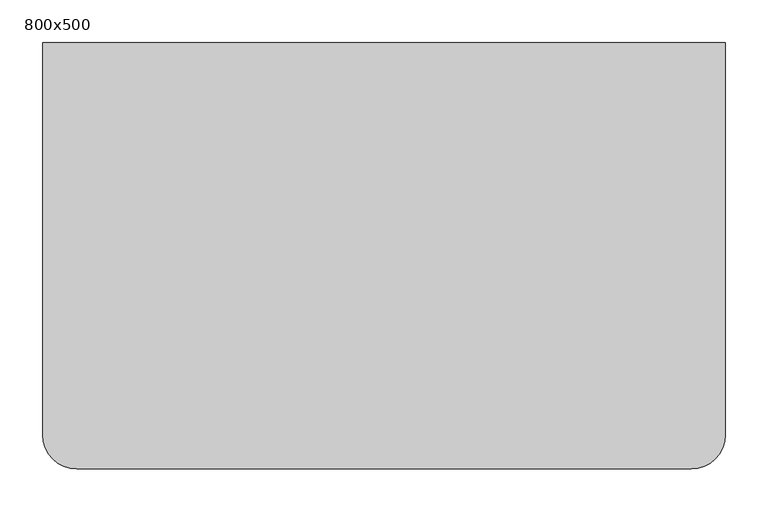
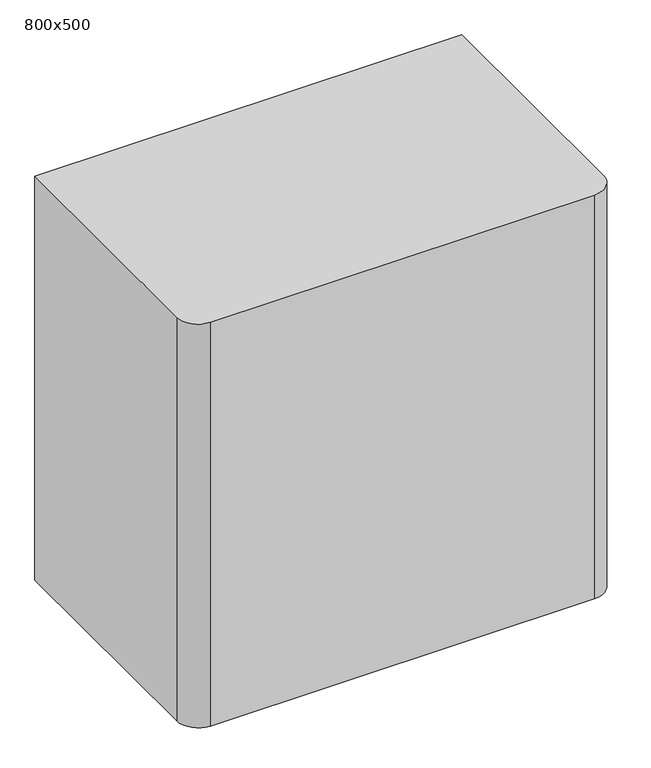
"""IFC4 building model written with IfcOpenShell, lengths in millimetres: flow terminal geometry, SP_раковина_LEG : 800x500."""

from ifc_helpers import new_model, si_unit, point, frame_2d, origin, origin_with_axes, place, context, project, spatial, polyline, circle_curve, trimmed, segment, composite_curve, outline, extrude, source, transform, mapped, element, save


def flow_terminal_800x500_2e84b328(model_context):
    return source(origin(), model_context, "Body", "SweptSolid", [
        extrude(outline(composite_curve([segment(polyline([(400.0, 0.0), (400.0, -460.0)]), True, "CONTINUOUS"), segment(trimmed(circle_curve(frame_2d((360.0, -460.0)), 40.0), [point((400.0, -460.0))], [point((360.0, -500.0))], False, "CARTESIAN"), True, "CONTINUOUS"), segment(polyline([(360.0, -500.0), (-360.0, -500.0)]), True, "CONTINUOUS"), segment(trimmed(circle_curve(frame_2d((-360.0, -460.0)), 40.0), [point((-360.0, -500.0))], [point((-400.0, -460.0))], False, "CARTESIAN"), True, "CONTINUOUS"), segment(polyline([(-400.0, -460.0), (-400.0, 0.0), (400.0, 0.0)]), True, "CONTINUOUS")], self_intersect=False)), origin_with_axes(), (0.0, 0.0, 1.0), 800.0),
    ])


if __name__ == "__main__":
    model = new_model("IFC4")
    model_context = context("Model", 3, world=origin())
    ifc_project = project(units=[si_unit("LENGTHUNIT", "METRE", prefix="MILLI")], contexts=[model_context])
    site = spatial("IfcSite", under=ifc_project)
    building = spatial("IfcBuilding", under=site)
    placement = place(None, origin())
    flow_terminal_800x500_shape = flow_terminal_800x500_2e84b328(model_context)
    element("IfcFlowTerminal", 1, ObjectType="SP_раковина_LEG : 800x500", at=placement, inside=building, context=model_context, shape_type="MappedRepresentation", body=[
        mapped(flow_terminal_800x500_shape, transform((0.0, 0.0, 0.0), x_axis=(1.0, 0.0, 0.0), y_axis=(0.0, 1.0, 0.0), z_axis=(0.0, 0.0, 1.0))),
    ])
    save(model, "model.ifc")
